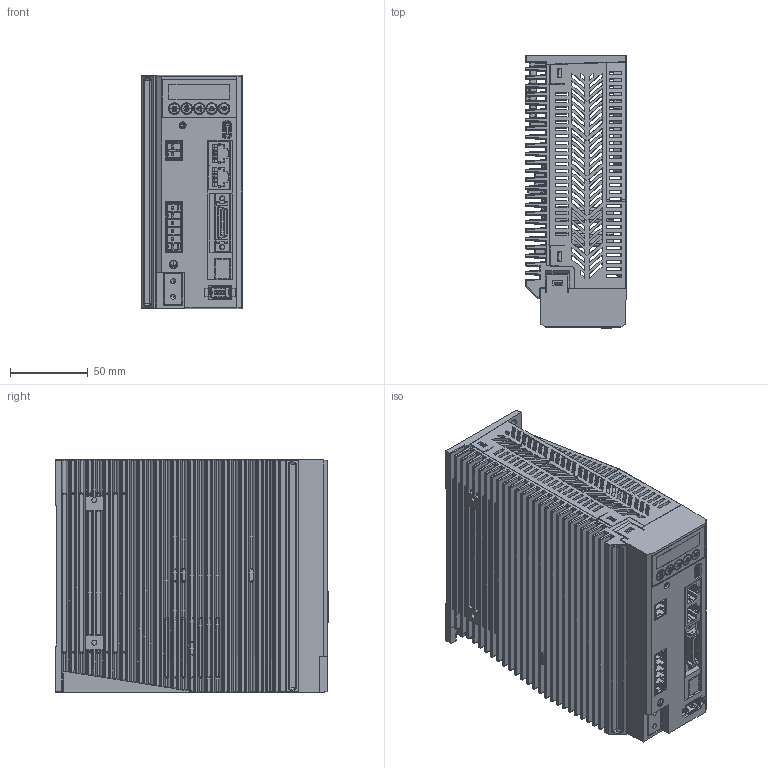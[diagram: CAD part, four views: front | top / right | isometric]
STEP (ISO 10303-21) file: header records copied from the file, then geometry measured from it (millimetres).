
FILE_DESCRIPTION (( 'STEP AP203' ), '1' );
FILE_NAME ('3D芞祧 2倰C1S V1.0.STEP', '2023-07-11T08:59:49', ( 'Microsoft' ), ( 'Microsoft' ), 'SwSTEP 2.0', 'SolidWorks 2020', '' );
FILE_SCHEMA (( 'CONFIG_CONTROL_DESIGN' ));
Length unit declared in the file: millimetre
Products named in the file (16): 珆尨啣PCB-750W; 750W俋褲; TYPE16M86-750W; jack-t3005006pin-222-750W; 晤鎢毀嚏1394脣釱-750W; 啣傷-26Pin-750W; 3弇杅鎢奪-750W; 3D芞祧 2倰C1S V1.0; 醱啣PCB偌瑩-750W; 750Wヶ醱褲; 翋萇硌尨腑-750W; jack-t3005002pin-750W; 112B035GWA1D（461430457 RJ45-双网口不带灯不带变压器（与集成变压器同尺寸））-750W; 750W散热器; 珆尨啣PCB 蚾饜极-750W; 偌瑩情臚-750W
Assembly tree (20 placements, depth 3):
  3D芞祧 2倰C1S V1.0
    750W散热器
    750W俋褲
    750Wヶ醱褲
    jack-t3005006pin-222-750W
    jack-t3005002pin-750W
    TYPE16M86-750W
    啣傷-26Pin-750W
    晤鎢毀嚏1394脣釱-750W
    112B035GWA1D（461430457 RJ45-双网口不带灯不带变压器（与集成变压器同尺寸））-750W
    珆尨啣PCB 蚾饜极-750W
      珆尨啣PCB-750W
      3弇杅鎢奪-750W  x2
      醱啣PCB偌瑩-750W  x5
    翋萇硌尨腑-750W
    偌瑩情臚-750W
Bounding box: 65.32 x 175.83 x 150.67 mm (x, y, z)
Volume: 394043.8 mm3; surface area: 296574.6 mm2
Topology: 35 solids, 37 shells, 8667 faces, 25190 edges, 16551 vertices
Faces by surface type: plane 5542, cylinder 1628, bspline 1254, torus 143, cone 64, sphere 36
Entity records: 296259 total; most frequent: CARTESIAN_POINT 91687, ORIENTED_EDGE 47166, DIRECTION 34023, EDGE_CURVE 23583, VECTOR 15673, LINE 15673, VERTEX_POINT 15647, AXIS2_PLACEMENT_3D 9175
